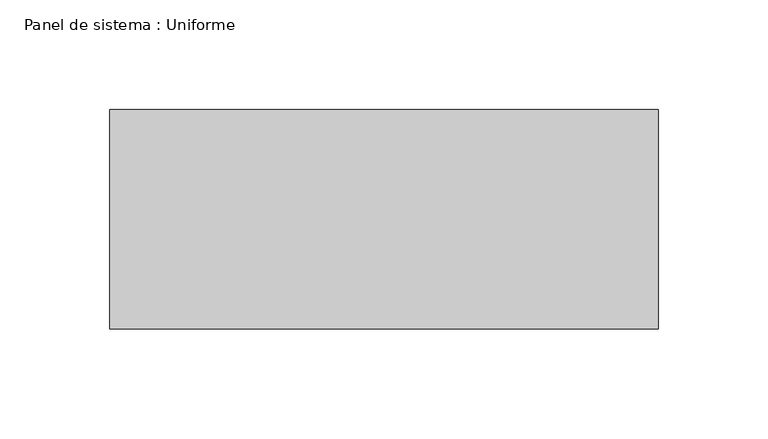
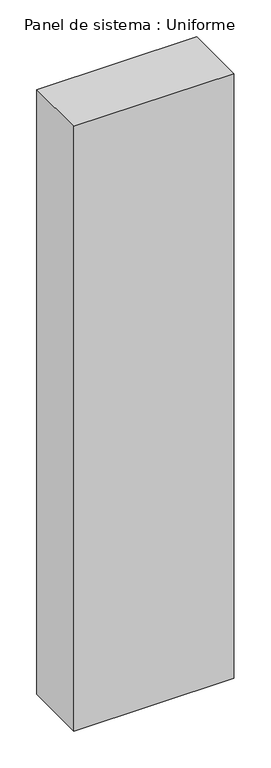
"""IFC4 building model written with IfcOpenShell, lengths in millimetres: plate geometry, Panel de sistema : Uniforme."""

from ifc_helpers import new_model, si_unit, origin, origin_with_axes, place, context, project, spatial, polyline, outline, extrude, source, transform, mapped, element, save


def panel_de_sistema_uniforme_6832dad9(model_context):
    return source(origin(), model_context, "Body", "SweptSolid", [
        extrude(outline(polyline([(125.0, -50.0), (-125.0, -50.0), (-125.0, 50.0), (125.0, 50.0), (125.0, -50.0)])), origin_with_axes(), (0.0, 0.0, 1.0), 1000.0),
    ])


if __name__ == "__main__":
    model = new_model("IFC4")
    model_context = context("Model", 3, world=origin())
    ifc_project = project(units=[si_unit("LENGTHUNIT", "METRE", prefix="MILLI")], contexts=[model_context])
    site = spatial("IfcSite", under=ifc_project)
    building = spatial("IfcBuilding", under=site)
    placement = place(None, origin())
    panel_de_sistema_uniforme_shape = panel_de_sistema_uniforme_6832dad9(model_context)
    element("IfcPlate", 1, ObjectType="Panel de sistema : Uniforme", at=placement, inside=building, context=model_context, shape_type="MappedRepresentation", body=[
        mapped(panel_de_sistema_uniforme_shape, transform((0.0, 0.0, 0.0), x_axis=(1.0, 0.0, 0.0), y_axis=(0.0, 1.0, 0.0), z_axis=(0.0, 0.0, 1.0))),
    ])
    save(model, "model.ifc")
